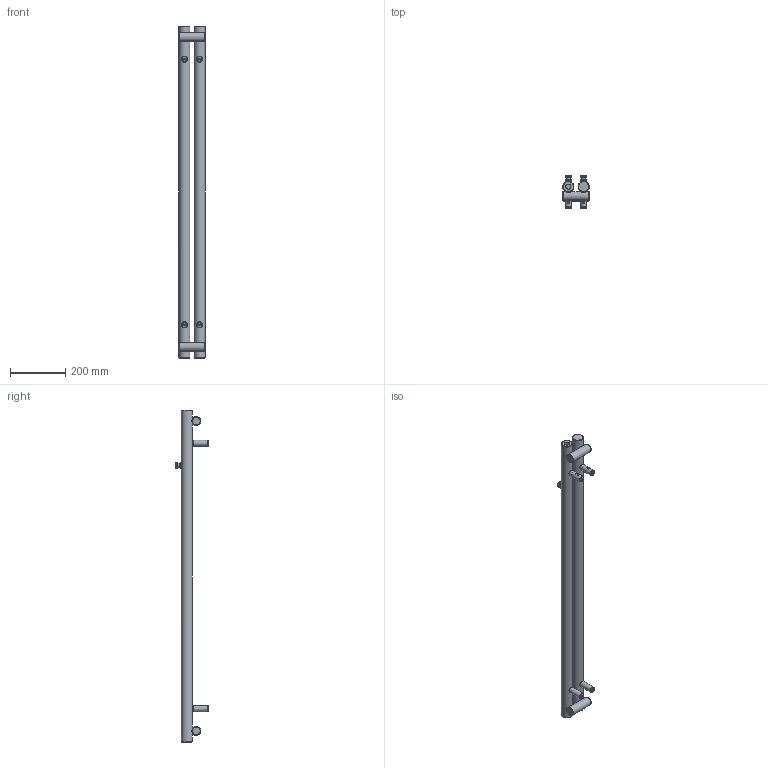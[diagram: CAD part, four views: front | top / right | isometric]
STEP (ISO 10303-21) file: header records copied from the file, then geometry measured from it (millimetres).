
FILE_DESCRIPTION(/* description */ (''),/* implementation_level */ '2;1');
FILE_NAME(/* name */ 'Z:\R\G\P\RGP116 - Grzejniki Geyser\Work\Inventor\Circolo (Rolo V, Rolo H)\ROLO-HANGER\Marketing\Bryły\Zaokrąglone\WGROW120009-SX-CK-(Z).stp',/* time_stamp */ '2024-02-02T13:25:34+01:00',/* author */ ('NowAd'),/* organization */ (''),/* preprocessor_version */ 'ST-DEVELOPER v17.2',/* originating_system */ 'Autodesk Inventor 2019',/* authorisation */ '');
FILE_SCHEMA (('AUTOMOTIVE_DESIGN { 1 0 10303 214 3 1 1 }'));
Length unit declared in the file: millimetre
Products named in the file (3): WGROR120009-SX-CK-(Z); PGROR120009-SX-CK-(K); CK-V-fi40 marketing
Assembly tree (5 placements, depth 2):
  WGROR120009-SX-CK-(Z)
    PGROR120009-SX-CK-(K)
    CK-V-fi40 marketing  x4
Bounding box: 95 x 116.5 x 1200 mm (x, y, z)
Volume: 3218760.5 mm3; surface area: 362412.8 mm2
Topology: 5 solids, 5 shells, 322 faces, 823 edges, 554 vertices
Faces by surface type: plane 133, cylinder 77, cone 60, torus 46, bspline 6
Full cylindrical faces by diameter (mm): 4.134 x4, 4.48 x4, 6.4 x4, 10 x4, 12 x4, 14 x2, 15.834 x4, 16 x4, 18.631 x3, 20 x4, 22 x4, 32 x2, 40 x2
Entity records: 5808 total; most frequent: CARTESIAN_POINT 2319, DIRECTION 752, ORIENTED_EDGE 688, EDGE_CURVE 344, AXIS2_PLACEMENT_3D 336, VERTEX_POINT 238, CIRCLE 187, EDGE_LOOP 172
